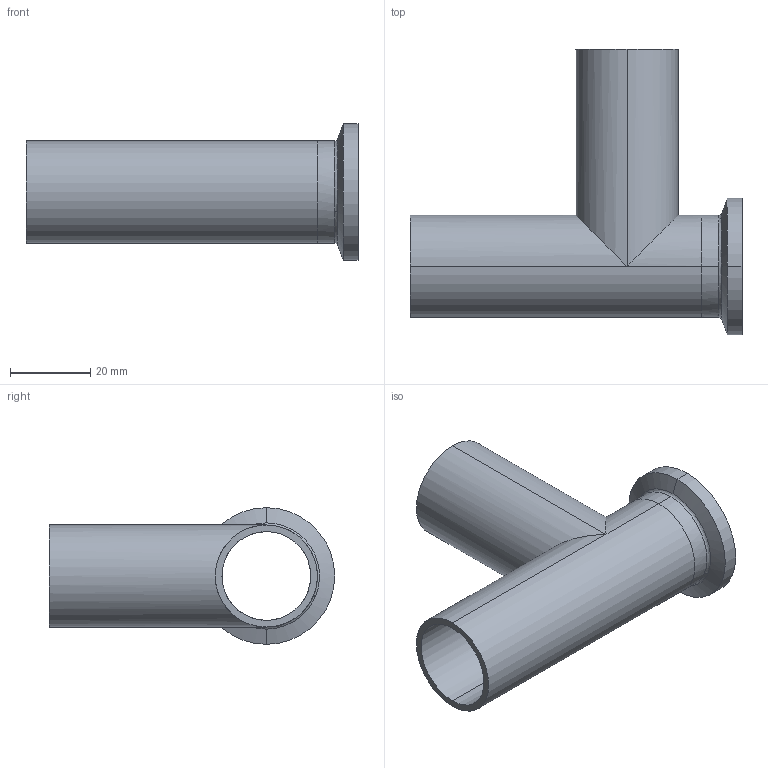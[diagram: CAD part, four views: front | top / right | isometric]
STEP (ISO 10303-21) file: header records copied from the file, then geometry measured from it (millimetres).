
FILE_DESCRIPTION (( 'STEP AP214' ), '1' );
FILE_NAME ('TE7WCSW6L1.0-.._Type A.STEP', '2016-05-24T11:43:29', ( 'eran' ), ( '' ), 'SwSTEP 2.0', 'SolidWorks 2016', '' );
FILE_SCHEMA (( 'AUTOMOTIVE_DESIGN' ));
Length unit declared in the file: millimetre
Products named in the file (1): TE7WCSW6L1.0-.._Type A
Bounding box: 82.6 x 71.01 x 34.01 mm (x, y, z)
Volume: 16233.1 mm3; surface area: 19664.3 mm2
Topology: 2 solids, 2 shells, 36 faces, 86 edges, 54 vertices
Faces by surface type: cylinder 18, bspline 8, plane 6, cone 4
Entity records: 1207 total; most frequent: CARTESIAN_POINT 321, DIRECTION 190, ORIENTED_EDGE 172, EDGE_CURVE 86, AXIS2_PLACEMENT_3D 83, CIRCLE 54, VERTEX_POINT 54, EDGE_LOOP 42
